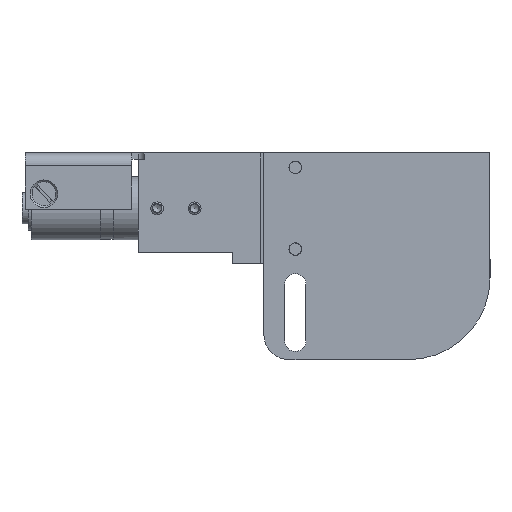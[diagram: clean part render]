
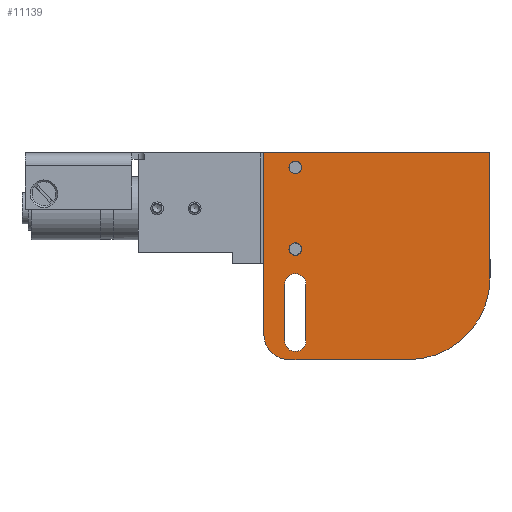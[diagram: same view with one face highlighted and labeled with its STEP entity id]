
A CAD part, front view. The second image highlights one B-rep face of the part: STEP entity #11139.
In plain terms, the highlighted planar face has unit normal (0, -1, 0).
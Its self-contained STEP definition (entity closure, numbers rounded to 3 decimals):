
#416=LINE($,#16431,#1345);
#433=LINE($,#16468,#1362);
#636=LINE($,#17474,#1565);
#637=LINE($,#17478,#1566);
#638=LINE($,#17482,#1567);
#639=LINE($,#17486,#1568);
#1345=VECTOR($,#13515,36.);
#1362=VECTOR($,#13540,20.);
#1565=VECTOR($,#14327,29.);
#1566=VECTOR($,#14330,19.);
#1567=VECTOR($,#14333,9.);
#1568=VECTOR($,#14336,9.);
#2512=PLANE($,#12113);
#2789=FACE_BOUND($,#3951,.T.);
#2790=FACE_BOUND($,#3952,.T.);
#2791=FACE_BOUND($,#3953,.T.);
#3215=FACE_OUTER_BOUND($,#3950,.T.);
#3950=EDGE_LOOP($,(#8862,#8863,#8864,#8865,#8866,#8867));
#3951=EDGE_LOOP($,(#8868,#8869,#8870,#8871));
#3952=EDGE_LOOP($,(#8872));
#3953=EDGE_LOOP($,(#8873));
#4560=CIRCLE($,#12114,4.);
#4561=CIRCLE($,#12115,13.);
#4562=CIRCLE($,#12116,1.7);
#4563=CIRCLE($,#12117,1.7);
#4564=CIRCLE($,#12118,1.007);
#4565=CIRCLE($,#12119,1.007);
#4959=VERTEX_POINT($,#16428);
#4960=VERTEX_POINT($,#16430);
#4976=VERTEX_POINT($,#16467);
#5231=VERTEX_POINT($,#17473);
#5232=VERTEX_POINT($,#17475);
#5233=VERTEX_POINT($,#17477);
#5234=VERTEX_POINT($,#17480);
#5235=VERTEX_POINT($,#17481);
#5236=VERTEX_POINT($,#17483);
#5237=VERTEX_POINT($,#17485);
#5238=VERTEX_POINT($,#17488);
#5239=VERTEX_POINT($,#17490);
#6142=EDGE_CURVE($,#4960,#4959,#416,.T.);
#6161=EDGE_CURVE($,#4976,#4960,#433,.T.);
#6520=EDGE_CURVE($,#4959,#5231,#636,.T.);
#6521=EDGE_CURVE($,#5231,#5232,#4560,.T.);
#6522=EDGE_CURVE($,#5232,#5233,#637,.T.);
#6523=EDGE_CURVE($,#5233,#4976,#4561,.T.);
#6524=EDGE_CURVE($,#5234,#5235,#638,.T.);
#6525=EDGE_CURVE($,#5235,#5236,#4562,.T.);
#6526=EDGE_CURVE($,#5236,#5237,#639,.T.);
#6527=EDGE_CURVE($,#5237,#5234,#4563,.T.);
#6528=EDGE_CURVE($,#5238,#5238,#4564,.T.);
#6529=EDGE_CURVE($,#5239,#5239,#4565,.T.);
#8862=ORIENTED_EDGE($,*,*,#6142,.T.);
#8863=ORIENTED_EDGE($,*,*,#6520,.T.);
#8864=ORIENTED_EDGE($,*,*,#6521,.T.);
#8865=ORIENTED_EDGE($,*,*,#6522,.T.);
#8866=ORIENTED_EDGE($,*,*,#6523,.T.);
#8867=ORIENTED_EDGE($,*,*,#6161,.T.);
#8868=ORIENTED_EDGE($,*,*,#6524,.T.);
#8869=ORIENTED_EDGE($,*,*,#6525,.T.);
#8870=ORIENTED_EDGE($,*,*,#6526,.T.);
#8871=ORIENTED_EDGE($,*,*,#6527,.T.);
#8872=ORIENTED_EDGE($,*,*,#6528,.T.);
#8873=ORIENTED_EDGE($,*,*,#6529,.T.);
#11139=ADVANCED_FACE($,(#3215,#2789,#2790,#2791),#2512,.T.);
#12113=AXIS2_PLACEMENT_3D($,#17472,#14325,#14326);
#12114=AXIS2_PLACEMENT_3D($,#17476,#14328,#14329);
#12115=AXIS2_PLACEMENT_3D($,#17479,#14331,#14332);
#12116=AXIS2_PLACEMENT_3D($,#17484,#14334,#14335);
#12117=AXIS2_PLACEMENT_3D($,#17487,#14337,#14338);
#12118=AXIS2_PLACEMENT_3D($,#17489,#14339,#14340);
#12119=AXIS2_PLACEMENT_3D($,#17491,#14341,#14342);
#13515=DIRECTION($,(-1.,0.,0.));
#13540=DIRECTION($,(0.,0.,1.));
#14325=DIRECTION('center_axis',(0.,-1.,0.));
#14326=DIRECTION('ref_axis',(0.,0.,
-1.));
#14327=DIRECTION($,(0.,0.,-1.));
#14328=DIRECTION('center_axis',(0.,-1.,0.));
#14329=DIRECTION('ref_axis',(0.,0.,
1.));
#14330=DIRECTION($,(1.,0.,0.));
#14331=DIRECTION('center_axis',(0.,-1.,0.));
#14332=DIRECTION('ref_axis',(-1.,0.,0.));
#14333=DIRECTION($,(0.,0.,-1.));
#14334=DIRECTION('center_axis',(0.,1.,0.));
#14335=DIRECTION('ref_axis',(1.,0.,0.));
#14336=DIRECTION($,(0.,0.,1.));
#14337=DIRECTION('center_axis',(0.,1.,0.));
#14338=DIRECTION('ref_axis',(-1.,0.,0.));
#14339=DIRECTION('center_axis',(0.,1.,0.));
#14340=DIRECTION('ref_axis',(1.,0.,0.));
#14341=DIRECTION('center_axis',(0.,1.,0.));
#14342=DIRECTION('ref_axis',(1.,0.,0.));
#16428=CARTESIAN_POINT('',(-36.,0.,33.));
#16430=CARTESIAN_POINT('',(0.,0.,33.));
#16431=CARTESIAN_POINT($,(0.,0.,33.));
#16467=CARTESIAN_POINT('',(0.,0.,
13.));
#16468=CARTESIAN_POINT($,(0.,0.,
13.));
#17472=CARTESIAN_POINT('Origin',(-18.985,0.,
18.252));
#17473=CARTESIAN_POINT('',(-36.,0.,4.));
#17474=CARTESIAN_POINT($,(-36.,0.,33.));
#17475=CARTESIAN_POINT('',(-32.,0.,0.));
#17476=CARTESIAN_POINT('Origin',(-32.,0.,
4.));
#17477=CARTESIAN_POINT('',(-13.,0.,0.));
#17478=CARTESIAN_POINT($,(-32.,0.,0.));
#17479=CARTESIAN_POINT('Origin',(-13.,0.,
13.));
#17480=CARTESIAN_POINT('',(-29.3,0.,12.));
#17481=CARTESIAN_POINT('',(-29.3,0.,3.));
#17482=CARTESIAN_POINT($,(-29.3,0.,10.626));
#17483=CARTESIAN_POINT('',(-32.7,0.,3.));
#17484=CARTESIAN_POINT('Origin',(-31.,0.,
3.));
#17485=CARTESIAN_POINT('',(-32.7,0.,12.));
#17486=CARTESIAN_POINT($,(-32.7,0.,15.126));
#17487=CARTESIAN_POINT('Origin',(-31.,0.,
12.));
#17488=CARTESIAN_POINT('',(-32.006,0.,30.6));
#17489=CARTESIAN_POINT('Origin',(-31.,0.,
30.6));
#17490=CARTESIAN_POINT('',(-32.006,0.,17.6));
#17491=CARTESIAN_POINT('Origin',(-31.,0.,
17.6));
